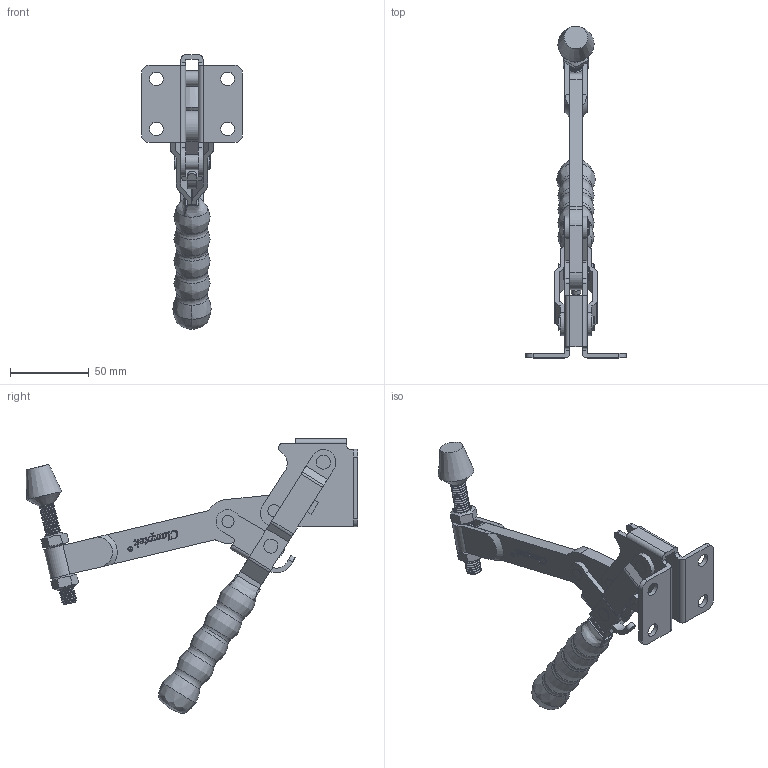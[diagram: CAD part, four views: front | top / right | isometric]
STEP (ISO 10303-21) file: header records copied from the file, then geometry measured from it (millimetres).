
FILE_DESCRIPTION(/* description */ ('STEP AP203'),/* implementation_level */ '2;1');
FILE_NAME(/* name */ 'D:\Vault_2016\Projekty\Clamptek\STRONA\Vertical toggle clamp\CH-12275\CH-12275_OTWARTY.stp',/* time_stamp */ '2019-01-18T13:38:50+01:00',/* author */ ('Łukasz'),/* organization */ ('Î¢ÈíÖÐ¹ú'),/* preprocessor_version */ 'ST-DEVELOPER v17.2',/* originating_system */ 'Autodesk Inventor 2019',/* authorisation */ '');
FILE_SCHEMA (('AUTOMOTIVE_DESIGN { 1 0 10303 214 3 1 1 }'));
Products named in the file (12): CH-12275; CH-12265-03 STRAIGHT HANDLE; CH-12265-05; CH-FC-38312 Nut; CH-12265-01 FLANGED BASE; CH-12265-06; CH-12265-07; CH-12265-08; CH-FC-38312 SPINDLE SUPPLIED; CH-12265-04 CONNECTING-PLATE; CH-12265-09; CH-12275-02 SOLID BAR_Ä¬ÈÏ_°´¼
Ó¹¤_
Assembly tree (16 placements, depth 2):
  CH-12275
    CH-12265-09  x2
    CH-12265-06  x2
    CH-FC-38312 Nut  x2
    CH-12265-05  x2
    CH-12265-03 STRAIGHT HANDLE
    CH-12265-08  x2
    CH-12265-01 FLANGED BASE
    CH-12265-07
    CH-FC-38312 SPINDLE SUPPLIED
    CH-12265-04 CONNECTING-PLATE
    CH-12275-02 SOLID BAR_Ä¬ÈÏ_°´¼
Ó¹¤_
Bounding box: 64.3 x 211.19 x 174.91 mm (x, y, z)
Volume: 114883.1 mm3; surface area: 73161 mm2
Topology: 20 solids, 21 shells, 696 faces, 1944 edges, 1312 vertices
Faces by surface type: plane 301, bspline 181, cylinder 146, cone 63, torus 5
Full cylindrical faces by diameter (mm): 2.627 x1, 2.921 x1, 6.4 x16, 8.7 x4, 9 x4, 9.5 x50, 9.6 x4, 13.856 x1
Entity records: 52694 total; most frequent: CARTESIAN_POINT 36796, ORIENTED_EDGE 3578, DIRECTION 2612, EDGE_CURVE 1789, VERTEX_POINT 1206, LINE 974, VECTOR 974, AXIS2_PLACEMENT_3D 819
